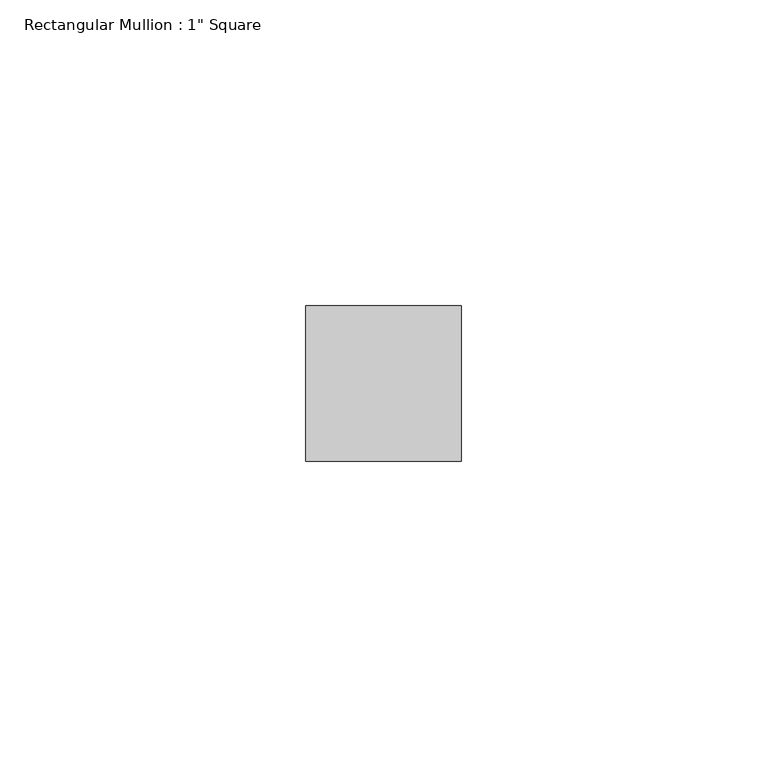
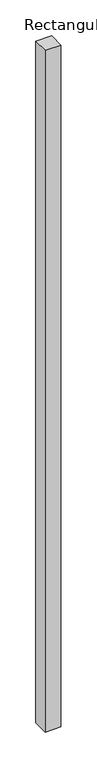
"""IFC4 building model written with IfcOpenShell, lengths in millimetres: member geometry."""

from ifc_helpers import new_model, si_unit, frame, origin, place, context, project, spatial, polyline, outline, extrude, source, transform, mapped, element, save


def member_c876edb5(model_context):
    return source(origin(), model_context, "Body", "SweptSolid", [
        extrude(outline(polyline([(12.7, 12.7), (12.7, -12.7), (-12.7, -12.7), (-12.7, 12.7), (12.7, 12.7)])), frame((0.0, 0.0, -1156.1246465), z_axis=(0.0, 0.0, 1.0), x_axis=(1.0, 0.0, 0.0)), (0.0, 0.0, 1.0), 1156.1246465),
    ])


if __name__ == "__main__":
    model = new_model("IFC4")
    model_context = context("Model", 3, world=origin())
    ifc_project = project(units=[si_unit("LENGTHUNIT", "METRE", prefix="MILLI")], contexts=[model_context])
    site = spatial("IfcSite", under=ifc_project)
    building = spatial("IfcBuilding", under=site)
    placement = place(None, origin())
    member_shape = member_c876edb5(model_context)
    element("IfcMember", 1, ObjectType="Rectangular Mullion : 1\" Square", at=placement, inside=building, context=model_context, shape_type="MappedRepresentation", body=[
        mapped(member_shape, transform((0.0, 0.0, 0.0), x_axis=(1.0, 0.0, 0.0), y_axis=(0.0, 1.0, 0.0), z_axis=(0.0, 0.0, 1.0))),
    ])
    save(model, "model.ifc")
